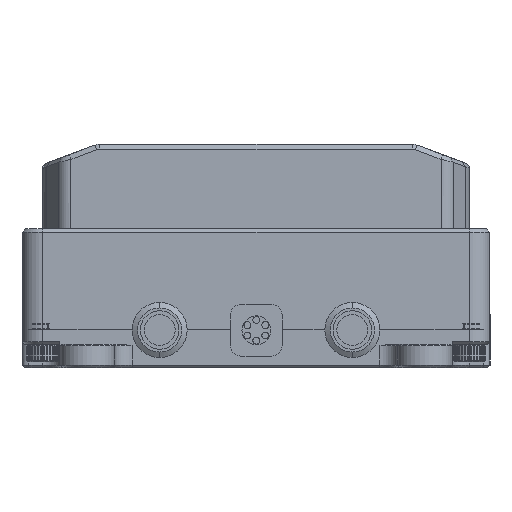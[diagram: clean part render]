
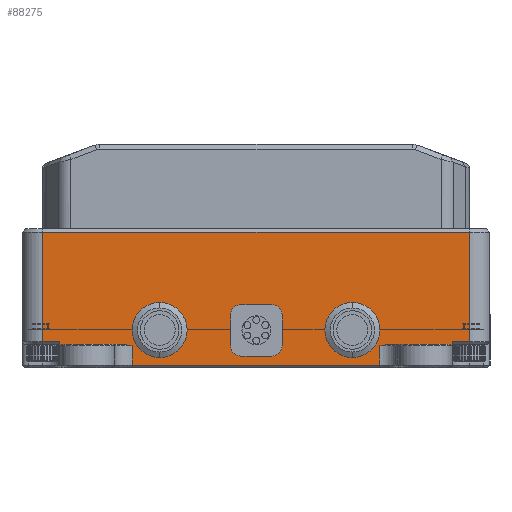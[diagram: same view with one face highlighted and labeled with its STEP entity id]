
A CAD part, left-side view. The second image highlights one B-rep face of the part: STEP entity #88275.
In plain terms, the highlighted planar face has unit normal (-1, 0, 0).
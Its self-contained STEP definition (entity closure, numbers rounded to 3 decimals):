
#753=DIRECTION('',(0.,0.,-1.));
#754=VECTOR('',#753,15.9);
#755=CARTESIAN_POINT('',(-66.5,31.,4.7));
#756=LINE('',#755,#754);
#783=DIRECTION('',(0.,-1.,0.));
#784=VECTOR('',#783,2.5);
#785=CARTESIAN_POINT('',(-66.5,-28.5,-11.2));
#786=LINE('',#785,#784);
#790=DIRECTION('',(0.,0.,-1.));
#791=VECTOR('',#790,0.6);
#792=CARTESIAN_POINT('',(-66.5,-28.5,-11.2));
#793=LINE('',#792,#791);
#797=DIRECTION('',(0.,0.,-1.));
#798=VECTOR('',#797,2.8);
#799=CARTESIAN_POINT('',(-66.5,-18.,-11.8));
#800=LINE('',#799,#798);
#804=DIRECTION('',(0.,1.,0.));
#805=VECTOR('',#804,36.);
#806=CARTESIAN_POINT('',(-66.5,-18.,
-14.6));
#807=LINE('',#806,#805);
#811=DIRECTION('',(0.,0.,1.));
#812=VECTOR('',#811,2.8);
#813=CARTESIAN_POINT('',(-66.5,18.,-14.6));
#814=LINE('',#813,#812);
#818=DIRECTION('',(0.,0.,1.));
#819=VECTOR('',#818,0.6);
#820=CARTESIAN_POINT('',(-66.5,28.5,-11.8));
#821=LINE('',#820,#819);
#825=DIRECTION('',(0.,1.,0.));
#826=VECTOR('',#825,2.5);
#827=CARTESIAN_POINT('',(-66.5,28.5,-11.2));
#828=LINE('',#827,#826);
#832=DIRECTION('',(0.,-1.,0.));
#833=VECTOR('',#832,62.);
#834=CARTESIAN_POINT('',(-66.5,31.,4.7));
#835=LINE('',#834,#833);
#839=CARTESIAN_POINT('',(-66.5,-14.,-9.5));
#840=DIRECTION('',(-1.,0.,0.));
#841=DIRECTION('',(0.,0.,1.));
#842=AXIS2_PLACEMENT_3D('',#839,#840,#841);
#847=CARTESIAN_POINT('',(-66.5,-14.,-9.5));
#848=DIRECTION('',(-1.,0.,0.));
#849=DIRECTION('',(0.,0.,-1.));
#850=AXIS2_PLACEMENT_3D('',#847,#848,#849);
#855=DIRECTION('',(0.,0.,-1.));
#856=VECTOR('',#855,3.);
#857=CARTESIAN_POINT('',(-66.5,3.05,-9.5));
#858=LINE('',#857,#856);
#862=DIRECTION('',(0.,-1.,0.));
#863=VECTOR('',#862,0.05);
#864=CARTESIAN_POINT('',(-66.5,3.05,-12.5));
#865=LINE('',#864,#863);
#869=DIRECTION('',(0.,0.,1.));
#870=VECTOR('',#869,6.);
#871=CARTESIAN_POINT('',(-66.5,-3.1,-12.5));
#872=LINE('',#871,#870);
#876=DIRECTION('',(0.,1.,0.));
#877=VECTOR('',#876,6.1);
#878=CARTESIAN_POINT('',(-66.5,-3.1,-6.5));
#879=LINE('',#878,#877);
#883=DIRECTION('',(0.,0.,1.));
#884=VECTOR('',#883,3.);
#885=CARTESIAN_POINT('',(-66.5,3.,-9.5));
#886=LINE('',#885,#884);
#890=CARTESIAN_POINT('',(-66.5,14.,-9.5));
#891=DIRECTION('',(-1.,0.,0.));
#892=DIRECTION('',(0.,0.,1.));
#893=AXIS2_PLACEMENT_3D('',#890,#891,#892);
#898=CARTESIAN_POINT('',(-66.5,14.,-9.5));
#899=DIRECTION('',(-1.,0.,0.));
#900=DIRECTION('',(0.,0.,-1.));
#901=AXIS2_PLACEMENT_3D('',#898,#899,#900);
#921=DIRECTION('',(0.,0.,1.));
#922=VECTOR('',#921,15.9);
#923=CARTESIAN_POINT('',(-66.5,-31.,
-11.2));
#924=LINE('',#923,#922);
#11801=DIRECTION('',(0.,-1.,0.));
#11802=VECTOR('',#11801,0.05);
#11803=CARTESIAN_POINT('',(-66.5,3.05,-9.5));
#11804=LINE('',#11803,#11802);
#13115=CARTESIAN_POINT('',(-66.5,-19.02,-11.6));
#13128=DIRECTION('',(0.,-1.,0.));
#13129=VECTOR('',#13128,9.28);
#13130=CARTESIAN_POINT('',(-66.5,-19.02,-11.6));
#13131=LINE('',#13130,#13129);
#13142=DIRECTION('',(0.,-1.,0.));
#13143=VECTOR('',#13142,9.28);
#13144=CARTESIAN_POINT('',(-66.5,28.3,-11.6));
#13145=LINE('',#13144,#13143);
#15521=DIRECTION('',(0.,-0.707,0.707));
#15522=VECTOR('',#15521,0.283);
#15523=CARTESIAN_POINT('',(-66.5,28.5,-11.8));
#15524=LINE('',#15523,#15522);
#15589=CARTESIAN_POINT('',(-66.5,19.02,-11.6));
#15590=CARTESIAN_POINT('',(-66.5,18.839,-11.668));
#15591=CARTESIAN_POINT('',(-66.5,18.489,-11.769));
#15592=CARTESIAN_POINT('',(-66.5,18.159,-11.8));
#15593=CARTESIAN_POINT('',(-66.5,18.,-11.8));
#15717=DIRECTION('',(0.,-0.707,-0.707));
#15718=VECTOR('',#15717,0.283);
#15719=CARTESIAN_POINT('',(-66.5,-28.3,-11.6));
#15720=LINE('',#15719,#15718);
#15789=CARTESIAN_POINT('',(-66.5,-18.,-11.8));
#15790=CARTESIAN_POINT('',(-66.5,-18.16,-11.8));
#15791=CARTESIAN_POINT('',(-66.5,-18.489,-11.769));
#15792=CARTESIAN_POINT('',(-66.5,-18.84,-11.668));
#15793=CARTESIAN_POINT('',(-66.5,-19.02,-11.6));
#48673=DIRECTION('',(0.,1.,0.));
#48674=VECTOR('',#48673,6.1);
#48675=CARTESIAN_POINT('',(-66.5,-3.1,-12.5));
#48676=LINE('',#48675,#48674);
#76886=CARTESIAN_POINT('',(-66.5,31.,4.7));
#76888=VERTEX_POINT('',#76886);
#76891=CARTESIAN_POINT('',(-66.5,-31.,
4.7));
#76892=VERTEX_POINT('',#76891);
#79061=CARTESIAN_POINT('',(-66.5,-14.,-6.));
#79062=VERTEX_POINT('',#79061);
#79115=CARTESIAN_POINT('',(-66.5,3.,-9.5));
#79117=VERTEX_POINT('',#79115);
#79119=CARTESIAN_POINT('',(-66.5,-3.1,-6.5));
#79120=CARTESIAN_POINT('',(-66.5,3.,-6.5));
#79121=VERTEX_POINT('',#79119);
#79122=VERTEX_POINT('',#79120);
#79169=CARTESIAN_POINT('',(-66.5,14.,-6.));
#79170=VERTEX_POINT('',#79169);
#80613=CARTESIAN_POINT('',(-66.5,-18.,
-14.6));
#80614=CARTESIAN_POINT('',(-66.5,18.,
-14.6));
#80615=VERTEX_POINT('',#80613);
#80616=VERTEX_POINT('',#80614);
#80883=CARTESIAN_POINT('',(-66.5,31.,-11.2));
#80884=VERTEX_POINT('',#80883);
#80885=CARTESIAN_POINT('',(-66.5,28.5,-11.2));
#80886=VERTEX_POINT('',#80885);
#80981=CARTESIAN_POINT('',(-66.5,-31.,-11.2));
#80982=VERTEX_POINT('',#80981);
#80985=CARTESIAN_POINT('',(-66.5,-28.5,-11.2));
#80986=VERTEX_POINT('',#80985);
#81510=CARTESIAN_POINT('',(-66.5,-28.5,-11.8));
#81512=VERTEX_POINT('',#81510);
#81514=CARTESIAN_POINT('',(-66.5,-28.3,-11.6));
#81516=VERTEX_POINT('',#81514);
#81525=VERTEX_POINT('',#13115);
#81526=CARTESIAN_POINT('',(-66.5,-18.,-11.8));
#81527=VERTEX_POINT('',#81526);
#81529=CARTESIAN_POINT('',(-66.5,28.3,-11.6));
#81531=VERTEX_POINT('',#81529);
#81533=CARTESIAN_POINT('',(-66.5,28.5,-11.8));
#81535=VERTEX_POINT('',#81533);
#81544=CARTESIAN_POINT('',(-66.5,18.,-11.8));
#81545=VERTEX_POINT('',#81544);
#81546=CARTESIAN_POINT('',(-66.5,19.02,-11.6));
#81547=VERTEX_POINT('',#81546);
#81585=CARTESIAN_POINT('',(-66.5,3.05,-9.5));
#81587=VERTEX_POINT('',#81585);
#81683=CARTESIAN_POINT('',(-66.5,-3.1,-12.5));
#81684=CARTESIAN_POINT('',(-66.5,3.,-12.5));
#81685=VERTEX_POINT('',#81683);
#81686=VERTEX_POINT('',#81684);
#81745=CARTESIAN_POINT('',(-66.5,-14.,-13.));
#81746=VERTEX_POINT('',#81745);
#81747=CARTESIAN_POINT('',(-66.5,14.,-13.));
#81748=VERTEX_POINT('',#81747);
#81755=CARTESIAN_POINT('',(-66.5,3.05,-12.5));
#81756=VERTEX_POINT('',#81755);
#88210=CARTESIAN_POINT('',(-66.5,34.,-9.5));
#88211=DIRECTION('',(-1.,0.,0.));
#88212=DIRECTION('',(0.,-1.,0.));
#88213=AXIS2_PLACEMENT_3D('',#88210,#88211,#88212);
#88214=PLANE('',#88213);
#88216=ORIENTED_EDGE('',*,*,#88215,.F.);
#88218=ORIENTED_EDGE('',*,*,#88217,.F.);
#88220=ORIENTED_EDGE('',*,*,#88219,.T.);
#88222=ORIENTED_EDGE('',*,*,#88221,.F.);
#88224=ORIENTED_EDGE('',*,*,#88223,.F.);
#88226=ORIENTED_EDGE('',*,*,#88225,.F.);
#88228=ORIENTED_EDGE('',*,*,#88227,.T.);
#88230=ORIENTED_EDGE('',*,*,#88229,.T.);
#88232=ORIENTED_EDGE('',*,*,#88231,.T.);
#88234=ORIENTED_EDGE('',*,*,#88233,.F.);
#88236=ORIENTED_EDGE('',*,*,#88235,.F.);
#88238=ORIENTED_EDGE('',*,*,#88237,.F.);
#88240=ORIENTED_EDGE('',*,*,#88239,.T.);
#88242=ORIENTED_EDGE('',*,*,#88241,.T.);
#88243=ORIENTED_EDGE('',*,*,#88201,.F.);
#88244=ORIENTED_EDGE('',*,*,#88084,.T.);
#88245=EDGE_LOOP('',(#88216,#88218,#88220,#88222,#88224,#88226,#88228,#88230,
#88232,#88234,#88236,#88238,#88240,#88242,#88243,#88244));
#88246=FACE_OUTER_BOUND('',#88245,.F.);
#88248=ORIENTED_EDGE('',*,*,#88247,.T.);
#88250=ORIENTED_EDGE('',*,*,#88249,.T.);
#88251=EDGE_LOOP('',(#88248,#88250));
#88252=FACE_BOUND('',#88251,.F.);
#88254=ORIENTED_EDGE('',*,*,#88253,.F.);
#88256=ORIENTED_EDGE('',*,*,#88255,.T.);
#88258=ORIENTED_EDGE('',*,*,#88257,.T.);
#88260=ORIENTED_EDGE('',*,*,#88259,.F.);
#88262=ORIENTED_EDGE('',*,*,#88261,.T.);
#88264=ORIENTED_EDGE('',*,*,#88263,.T.);
#88266=ORIENTED_EDGE('',*,*,#88265,.F.);
#88267=EDGE_LOOP('',(#88254,#88256,#88258,#88260,#88262,#88264,#88266));
#88268=FACE_BOUND('',#88267,.F.);
#88270=ORIENTED_EDGE('',*,*,#88269,.T.);
#88272=ORIENTED_EDGE('',*,*,#88271,.T.);
#88273=EDGE_LOOP('',(#88270,#88272));
#88274=FACE_BOUND('',#88273,.F.);
#843=CIRCLE('',#842,3.5);
#851=CIRCLE('',#850,3.5);
#894=CIRCLE('',#893,3.5);
#902=CIRCLE('',#901,3.5);
#15594=B_SPLINE_CURVE_WITH_KNOTS('',3,(#15589,#15590,#15591,#15592,#15593),
.UNSPECIFIED.,.F.,.F.,(4,1,4),(0.,0.5,1.),.UNSPECIFIED.);
#15794=B_SPLINE_CURVE_WITH_KNOTS('',3,(#15789,#15790,#15791,#15792,#15793),
.UNSPECIFIED.,.F.,.F.,(4,1,4),(0.,0.5,1.),.UNSPECIFIED.);
#88084=EDGE_CURVE('',#76888,#76892,#835,.T.);
#88201=EDGE_CURVE('',#76888,#80884,#756,.T.);
#88215=EDGE_CURVE('',#80982,#76892,#924,.T.);
#88217=EDGE_CURVE('',#80986,#80982,#786,.T.);
#88219=EDGE_CURVE('',#80986,#81512,#793,.T.);
#88221=EDGE_CURVE('',#81516,#81512,#15720,.T.);
#88223=EDGE_CURVE('',#81525,#81516,#13131,.T.);
#88225=EDGE_CURVE('',#81527,#81525,#15794,.T.);
#88227=EDGE_CURVE('',#81527,#80615,#800,.T.);
#88229=EDGE_CURVE('',#80615,#80616,#807,.T.);
#88231=EDGE_CURVE('',#80616,#81545,#814,.T.);
#88233=EDGE_CURVE('',#81547,#81545,#15594,.T.);
#88235=EDGE_CURVE('',#81531,#81547,#13145,.T.);
#88237=EDGE_CURVE('',#81535,#81531,#15524,.T.);
#88239=EDGE_CURVE('',#81535,#80886,#821,.T.);
#88241=EDGE_CURVE('',#80886,#80884,#828,.T.);
#88247=EDGE_CURVE('',#79062,#81746,#843,.T.);
#88249=EDGE_CURVE('',#81746,#79062,#851,.T.);
#88253=EDGE_CURVE('',#81587,#79117,#11804,.T.);
#88255=EDGE_CURVE('',#81587,#81756,#858,.T.);
#88257=EDGE_CURVE('',#81756,#81686,#865,.T.);
#88259=EDGE_CURVE('',#81685,#81686,#48676,.T.);
#88261=EDGE_CURVE('',#81685,#79121,#872,.T.);
#88263=EDGE_CURVE('',#79121,#79122,#879,.T.);
#88265=EDGE_CURVE('',#79117,#79122,#886,.T.);
#88269=EDGE_CURVE('',#79170,#81748,#894,.T.);
#88271=EDGE_CURVE('',#81748,#79170,#902,.T.);
#88275=ADVANCED_FACE('',(#88246,#88252,#88268,#88274),#88214,.T.);
